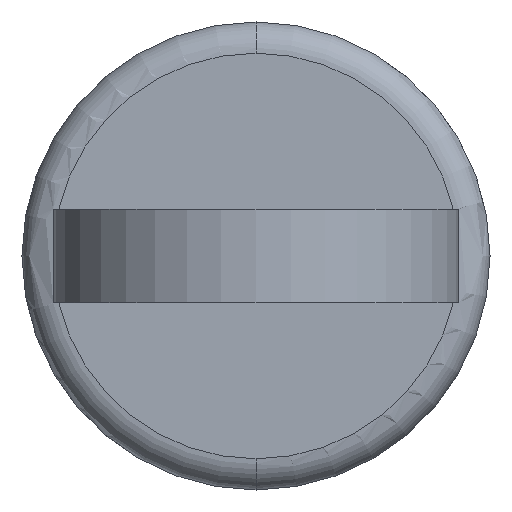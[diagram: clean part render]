
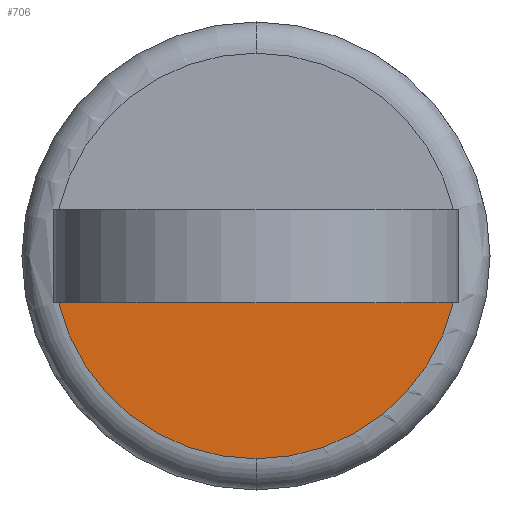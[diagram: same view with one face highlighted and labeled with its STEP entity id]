
A CAD part, front view. The second image highlights one B-rep face of the part: STEP entity #706.
In plain terms, the highlighted planar face has unit normal (0, -1, 0).
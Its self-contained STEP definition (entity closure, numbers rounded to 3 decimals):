
#12 = EDGE_CURVE ( 'NONE', #646, #33, #906, .T. ) ;
#13 = PLANE ( 'NONE',  #242 ) ;
#33 = VERTEX_POINT ( 'NONE', #316 ) ;
#45 = DIRECTION ( 'NONE',  ( 0., 0., 1. ) ) ;
#76 = CARTESIAN_POINT ( 'NONE',  ( -6.325, 11., -1.5 ) ) ;
#85 = AXIS2_PLACEMENT_3D ( 'NONE', #409, #329, #45 ) ;
#217 = FACE_OUTER_BOUND ( 'NONE', #810, .T. ) ;
#242 = AXIS2_PLACEMENT_3D ( 'NONE', #932, #485, #386 ) ;
#316 = CARTESIAN_POINT ( 'NONE',  ( 6.325, 11., -1.5 ) ) ;
#329 = DIRECTION ( 'NONE',  ( 0., -1., 0. ) ) ;
#349 = ORIENTED_EDGE ( 'NONE', *, *, #1045, .T. ) ;
#377 = CIRCLE ( 'NONE', #85, 6.5 ) ;
#386 = DIRECTION ( 'NONE',  ( 0., 0., 1. ) ) ;
#409 = CARTESIAN_POINT ( 'NONE',  ( 0., 11., 0. ) ) ;
#485 = DIRECTION ( 'NONE',  ( 0., 1., 0. ) ) ;
#551 = VERTEX_POINT ( 'NONE', #76 ) ;
#552 = DIRECTION ( 'NONE',  ( -1., 0., 0. ) ) ;
#558 = LINE ( 'NONE', #875, #1031 ) ;
#646 = VERTEX_POINT ( 'NONE', #834 ) ;
#679 = AXIS2_PLACEMENT_3D ( 'NONE', #741, #1018, #1022 ) ;
#706 = ADVANCED_FACE ( 'NONE', ( #217 ), #13, .F. ) ;
#741 = CARTESIAN_POINT ( 'NONE',  ( 0., 11., 0. ) ) ;
#810 = EDGE_LOOP ( 'NONE', ( #349, #976, #863 ) ) ;
#824 = EDGE_CURVE ( 'NONE', #551, #646, #377, .T. ) ;
#834 = CARTESIAN_POINT ( 'NONE',  ( 0., 11., -6.5 ) ) ;
#863 = ORIENTED_EDGE ( 'NONE', *, *, #12, .T. ) ;
#875 = CARTESIAN_POINT ( 'NONE',  ( -6.5, 11., -1.5 ) ) ;
#906 = CIRCLE ( 'NONE', #679, 6.5 ) ;
#932 = CARTESIAN_POINT ( 'NONE',  ( 0., 11., 0. ) ) ;
#976 = ORIENTED_EDGE ( 'NONE', *, *, #824, .T. ) ;
#1018 = DIRECTION ( 'NONE',  ( 0., -1., 0. ) ) ;
#1022 = DIRECTION ( 'NONE',  ( 0., 0., 1. ) ) ;
#1031 = VECTOR ( 'NONE', #552, 1000. ) ;
#1045 = EDGE_CURVE ( 'NONE', #33, #551, #558, .T. ) ;
